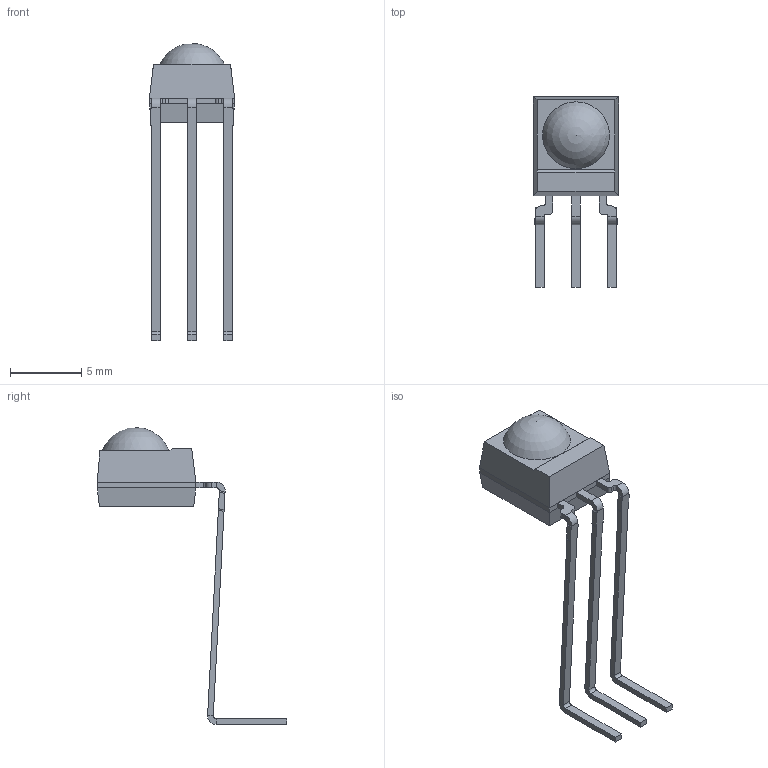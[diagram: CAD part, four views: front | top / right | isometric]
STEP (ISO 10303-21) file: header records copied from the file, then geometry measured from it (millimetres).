
FILE_DESCRIPTION((''),'2;1');
FILE_NAME('C:\temp\Mold_DE.stp','2014-06-18T12:22:01',('gobenland'),(''),'Autodesk Inventor 2013','Autodesk Inventor 2013','');
FILE_SCHEMA(('AUTOMOTIVE_DESIGN { 1 0 10303 214 1 1 1 1 }'));
Length unit declared in the file: millimetre
Products named in the file (3): GO-100184.36; GO-100184; GO-100184.036
Assembly tree (2 placements, depth 2):
  GO-100184.36
    GO-100184
    GO-100184.036
Bounding box: 6 x 13.35 x 20.9 mm (x, y, z)
Volume: 188.6 mm3; surface area: 327.3 mm2
Topology: 4 solids, 4 shells, 121 faces, 283 edges, 170 vertices
Faces by surface type: plane 88, cylinder 32, sphere 1
Entity records: 3446 total; most frequent: DIRECTION 598, CARTESIAN_POINT 576, ORIENTED_EDGE 562, EDGE_CURVE 281, VECTOR 216, LINE 216, AXIS2_PLACEMENT_3D 191, VERTEX_POINT 169
